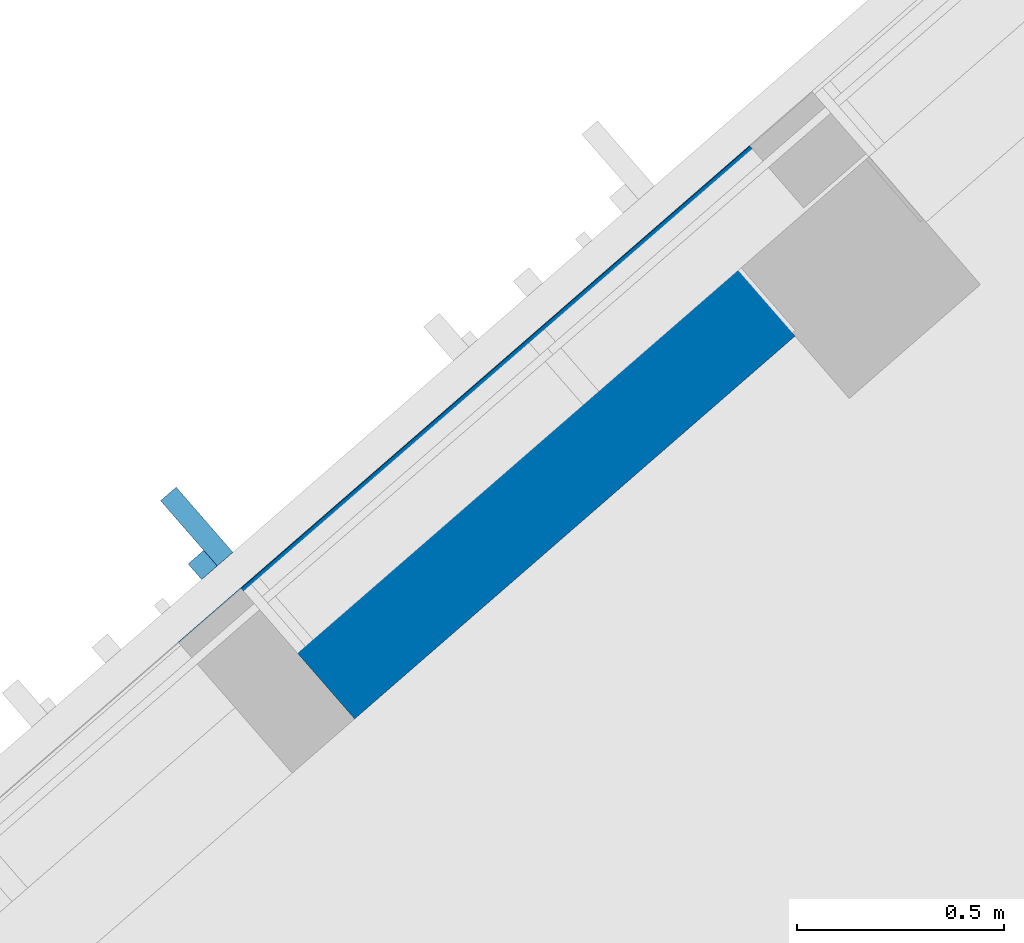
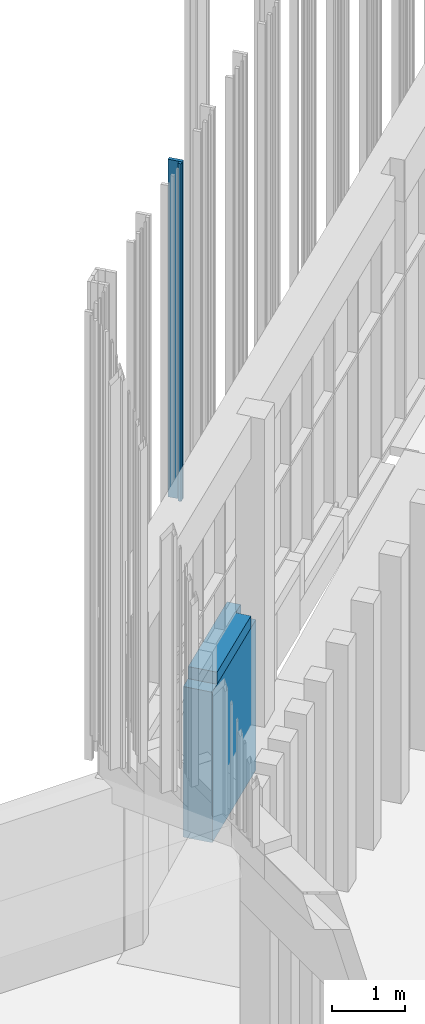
# One storey, part 136 of 390: 4 walls.
"""IFC2X3 building model written with IfcOpenShell, lengths in millimetres."""

from ifc_helpers import new_model, entity, si_unit, converted_unit, derived_unit, money_unit, direction, frame, origin_with_axes, place, context, subcontext, project, spatial, faceted_brep, material, material_list, type_object, element, save


model = new_model("IFC2X3")

# Units and contexts
model_context = context("Model", 3, precision=1e-05, world=origin_with_axes(), true_north=direction((0.0, 1.0)))
body_context = subcontext(model_context, "Body", "Model", "MODEL_VIEW")
ifc_project = project(units=[si_unit("LENGTHUNIT", "METRE", prefix="MILLI"), si_unit("AREAUNIT", "SQUARE_METRE"), si_unit("VOLUMEUNIT", "CUBIC_METRE"), converted_unit("PLANEANGLEUNIT", "DEGREE", entity("IfcPlaneAngleMeasure", 0.0174532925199), si_unit("PLANEANGLEUNIT", "RADIAN"), dimensions=[0, 0, 0, 0, 0, 0, 0]), si_unit("SOLIDANGLEUNIT", "STERADIAN"), money_unit("EUR"), converted_unit("TIMEUNIT", "Year", entity("IfcTimeMeasure", 31556926.0), si_unit("TIMEUNIT", "SECOND"), dimensions=[0, 0, 1, 0, 0, 0, 0]), si_unit("MASSUNIT", "GRAM", prefix="KILO"), si_unit("THERMODYNAMICTEMPERATUREUNIT", "DEGREE_CELSIUS"), si_unit("LUMINOUSINTENSITYUNIT", "LUMEN"), si_unit("ENERGYUNIT", "JOULE", prefix="MEGA"), derived_unit("THERMALCONDUCTANCEUNIT", [(si_unit("POWERUNIT", "WATT"), 1), (si_unit("LENGTHUNIT", "METRE"), -1), (si_unit("THERMODYNAMICTEMPERATUREUNIT", "KELVIN"), -1)]), derived_unit("SPECIFICHEATCAPACITYUNIT", [(si_unit("ENERGYUNIT", "JOULE"), 1), (si_unit("MASSUNIT", "GRAM", prefix="KILO"), -1), (si_unit("THERMODYNAMICTEMPERATUREUNIT", "KELVIN"), -1)]), derived_unit("MASSDENSITYUNIT", [(si_unit("MASSUNIT", "GRAM", prefix="KILO"), 1), (si_unit("VOLUMEUNIT", "CUBIC_METRE"), -1)])], contexts=[model_context])

# Site, building, storey
site_placement = place(None, origin_with_axes())
site = spatial("IfcSite", under=ifc_project, at=site_placement, Name="Site", CompositionType="ELEMENT")
building_placement = place(site_placement, origin_with_axes())
building = spatial("IfcBuilding", under=site, at=building_placement, Name="Building", CompositionType="ELEMENT")
storey_placement = place(building_placement, origin_with_axes())
storey = spatial("IfcBuildingStorey", under=building, at=storey_placement, Name="1 korrus", CompositionType="ELEMENT", Elevation=0.0)

# Walls
ifc_material_1 = material(Name="Krohv - Lubjakivi")
ifc_material_2 = material(Name="Raudbetoon - Konstruktsioon")
ifc_material_3 = material(Name="Soojustus - Plastik Kõva")
ifc_material_4 = material(Name="Membraan - Veekindel")
ifc_material_list_1 = material_list([ifc_material_1, ifc_material_2, ifc_material_3, ifc_material_3, ifc_material_4, ifc_material_4])
wall_type_1 = type_object("IfcWallType", Name="VS-03", PredefinedType="NOTDEFINED")
wall_1_placement = place(storey_placement, frame((126849.990181, 79613.7731986, -1220.0), z_axis=(0.0, 0.0, 1.0), x_axis=(-0.754709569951, -0.656059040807, 0.0)))
element("IfcWall", 1, at=wall_1_placement, inside=storey, type_object=wall_type_1, material=ifc_material_list_1, Name="VS-03", context=body_context, shape_type="Brep", body=[
    faceted_brep([(1829.99999353, -10.0, 2505.0), (1829.99999353, 0.0, 2505.0), (0.0, 0.0, 2505.0), (0.0, -10.0, 2505.0), (1829.99999353, -10.0, 0.0), (1829.99999353, 0.0, 0.0), (0.0, 0.0, 0.0), (0.0, -10.0, 0.0)], [[[0, 1, 2, 3]], [[0, 4, 5, 1]], [[1, 5, 6, 2]], [[3, 2, 6, 7]], [[4, 0, 3, 7]], [[5, 4, 7, 6]]]),
    faceted_brep([(1829.99999353, -210.0, 2505.0), (1829.99999353, -10.0, 2505.0), (0.0, -10.0, 2505.0), (0.0, -210.0, 2505.0), (1829.99999353, -210.0, 0.0), (1829.99999353, -10.0, 0.0), (0.0, -10.0, 0.0), (0.0, -210.0, 0.0)], [[[0, 1, 2, 3]], [[0, 4, 5, 1]], [[1, 5, 6, 2]], [[3, 2, 6, 7]], [[4, 0, 3, 7]], [[5, 4, 7, 6]]]),
    faceted_brep([(1829.99999353, -360.0, 2505.0), (1829.99999353, -210.0, 2505.0), (0.0, -210.0, 2505.0), (0.0, -360.0, 2505.0), (1829.99999353, -360.0, 0.0), (1829.99999353, -210.0, 0.0), (0.0, -210.0, 0.0), (0.0, -360.0, 0.0)], [[[0, 1, 2, 3]], [[0, 4, 5, 1]], [[1, 5, 6, 2]], [[3, 2, 6, 7]], [[4, 0, 3, 7]], [[5, 4, 7, 6]]]),
    faceted_brep([(1829.99999353, -410.0, 2505.0), (1829.99999353, -360.0, 2505.0), (0.0, -360.0, 2505.0), (0.0, -410.0, 2505.0), (1829.99999353, -410.0, 0.0), (1829.99999353, -360.0, 0.0), (0.0, -360.0, 0.0), (0.0, -410.0, 0.0)], [[[0, 1, 2, 3]], [[0, 4, 5, 1]], [[1, 5, 6, 2]], [[3, 2, 6, 7]], [[4, 0, 3, 7]], [[5, 4, 7, 6]]]),
    faceted_brep([(1829.99999353, -415.0, 2505.0), (1829.99999353, -410.0, 2505.0), (0.0, -410.0, 2505.0), (0.0, -415.0, 2505.0), (1829.99999353, -415.0, 0.0), (1829.99999353, -410.0, 0.0), (0.0, -410.0, 0.0), (0.0, -415.0, 0.0)], [[[0, 1, 2, 3]], [[0, 4, 5, 1]], [[1, 5, 6, 2]], [[3, 2, 6, 7]], [[4, 0, 3, 7]], [[5, 4, 7, 6]]]),
    faceted_brep([(1829.99999353, -420.0, 2505.0), (1829.99999353, -415.0, 2505.0), (0.0, -415.0, 2505.0), (0.0, -420.0, 2505.0), (1829.99999353, -420.0, 0.0), (1829.99999353, -415.0, 0.0), (0.0, -415.0, 0.0), (0.0, -420.0, 0.0)], [[[0, 1, 2, 3]], [[0, 4, 5, 1]], [[1, 5, 6, 2]], [[3, 2, 6, 7]], [[4, 0, 3, 7]], [[5, 4, 7, 6]]]),
])
ifc_material_5 = material(Name="Site specified")
wall_type_2 = type_object("IfcWallType", Name="Puitfassaadi ribistik", PredefinedType="NOTDEFINED")
wall_2_placement = place(storey_placement, frame((125252.445615, 78916.7056374, 4248.16638884), z_axis=(0.0, 0.0, 1.0), x_axis=(0.754709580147, 0.656059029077, 0.0)))
element("IfcWall", 2, at=wall_2_placement, inside=storey, type_object=wall_type_2, material=ifc_material_5, Name="Site specified", context=body_context, shape_type="Brep", body=[
    faceted_brep([(25.0, 25.0, 5616.83361116), (25.0, 25.0, 0.0), (-25.0, 25.0, 0.0), (-25.0, 25.0, 5616.83361116), (25.0, -25.0, 5616.83361116), (25.0, -25.0, 0.0), (-25.0, -25.0, 0.0), (-25.0, -25.0, 5616.83361116)], [[[0, 1, 2, 3]], [[4, 5, 1, 0]], [[2, 1, 5, 6]], [[3, 2, 6, 7]], [[4, 0, 3, 7]], [[7, 6, 5, 4]]]),
])
wall_3_placement = place(storey_placement, frame((125238.024401, 79009.5080004, 4248.16638884), z_axis=(0.0, 0.0, 1.0), x_axis=(0.754709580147, 0.656059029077, 0.0)))
element("IfcWall", 3, at=wall_3_placement, inside=storey, type_object=wall_type_2, material=ifc_material_5, Name="Site specified", context=body_context, shape_type="Brep", body=[
    faceted_brep([(25.0, 104.5, 5616.83361116), (25.0, 104.5, 0.0), (-25.0, 104.5, 0.0), (-25.0, 104.5, 5616.83361116), (25.0, -104.5, 5616.83361116), (25.0, -104.5, 0.0), (-25.0, -104.5, 0.0), (-25.0, -104.5, 5616.83361116)], [[[0, 1, 2, 3]], [[4, 5, 1, 0]], [[2, 1, 5, 6]], [[3, 2, 6, 7]], [[4, 0, 3, 7]], [[7, 6, 5, 4]]]),
])
ifc_material_6 = material(Name="Plaat - Sein")
ifc_material_list_2 = material_list([ifc_material_6, ifc_material_3, ifc_material_3, ifc_material_2, ifc_material_1])
wall_type_3 = type_object("IfcWallType", Name="VS-05", PredefinedType="NOTDEFINED")
wall_4_placement = place(storey_placement, frame((125619.813591, 78544.3969627, 1285.0), z_axis=(0.0, 0.0, 1.0), x_axis=(0.754709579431, 0.656059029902, 0.0)))
element("IfcWall", 4, at=wall_4_placement, inside=storey, type_object=wall_type_3, material=ifc_material_list_2, Name="VS-05", context=body_context, shape_type="Brep", body=[
    faceted_brep([(0.0, 418.0, 0.0), (1630.0, 418.0, 0.0), (1630.0, 410.0, 0.0), (0.0, 410.0, 0.0), (0.0, 418.0, 200.0), (1630.0, 418.0, 200.0), (1630.0, 410.0, 200.0), (0.0, 410.0, 200.0)], [[[0, 1, 2, 3]], [[4, 5, 1, 0]], [[2, 1, 5, 6]], [[3, 2, 6, 7]], [[4, 0, 3, 7]], [[7, 6, 5, 4]]]),
    faceted_brep([(0.0, 410.0, 0.0), (1630.0, 410.0, 0.0), (1630.0, 360.0, 0.0), (0.0, 360.0, 0.0), (0.0, 410.0, 200.0), (1630.0, 410.0, 200.0), (1630.0, 360.0, 200.0), (0.0, 360.0, 200.0)], [[[0, 1, 2, 3]], [[4, 5, 1, 0]], [[2, 1, 5, 6]], [[3, 2, 6, 7]], [[4, 0, 3, 7]], [[7, 6, 5, 4]]]),
    faceted_brep([(1410.84579853, 210.0, 200.0), (1410.84579858, 219.999995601, 200.0), (1630.0, 219.999994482, 200.0), (1630.0, 360.0, 200.0), (0.0, 360.0, 200.0), (0.0, 210.0, 200.0), (1410.84579853, 210.0, 0.0), (1410.84579858, 219.999995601, 0.0), (1630.0, 219.999994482, 0.0), (1630.0, 360.0, 0.0), (0.0, 360.0, 0.0), (0.0, 210.0, 0.0)], [[[0, 1, 2, 3, 4, 5]], [[1, 0, 6, 7]], [[8, 2, 1, 7]], [[2, 8, 9, 3]], [[4, 3, 9, 10]], [[4, 10, 11, 5]], [[6, 0, 5, 11]], [[7, 6, 11, 10, 9, 8]]]),
    faceted_brep([(1420.84579751, 10.0, 0.0), (1420.84579751, 10.0, 200.0), (0.0, 10.0, 200.0), (0.0, 10.0, 0.0), (1420.84579853, 209.99999555, 200.0), (1420.84579853, 209.99999555, 0.0), (0.0, 210.0, 200.0), (0.0, 210.0, 0.0)], [[[0, 1, 2, 3]], [[4, 1, 0, 5]], [[1, 4, 6, 2]], [[6, 7, 3, 2]], [[5, 0, 3, 7]], [[4, 5, 7, 6]]]),
    faceted_brep([(1410.84579746, 0.0, 0.0), (1410.84579746, 0.0, 200.0), (0.0, 0.0, 200.0), (0.0, 0.0, 0.0), (1410.84579751, 10.0, 200.0), (1410.84579751, 10.0, 0.0), (0.0, 10.0, 200.0), (0.0, 10.0, 0.0)], [[[0, 1, 2, 3]], [[4, 1, 0, 5]], [[1, 4, 6, 2]], [[6, 7, 3, 2]], [[5, 0, 3, 7]], [[4, 5, 7, 6]]]),
])

save(model, "model.ifc")
